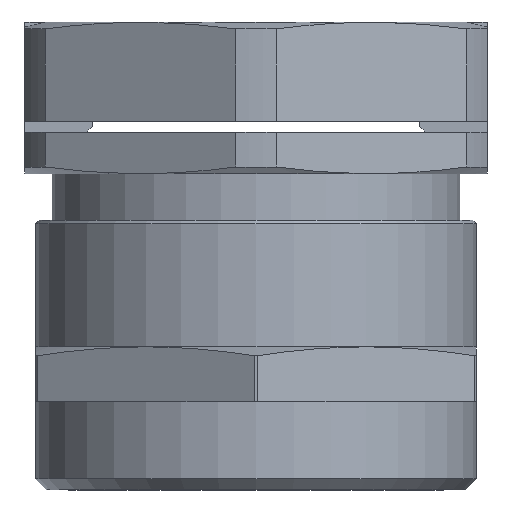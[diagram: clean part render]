
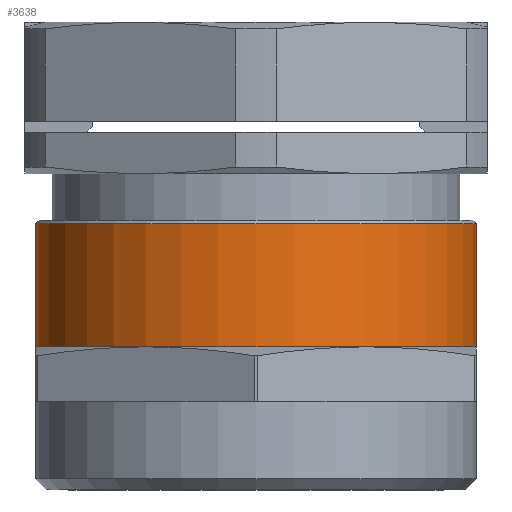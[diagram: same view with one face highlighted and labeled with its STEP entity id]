
A CAD part, front view. The second image highlights one B-rep face of the part: STEP entity #3638.
In plain terms, the highlighted cylindrical face has radius 20 mm (diameter 40 mm), a partial arc.
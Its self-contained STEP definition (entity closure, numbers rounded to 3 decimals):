
#33 = CARTESIAN_POINT ( 'NONE',  ( 20., 0., -29.5 ) ) ;
#34 = DIRECTION ( 'NONE',  ( 0., 0., 1. ) ) ;
#35 = VECTOR ( 'NONE', #34, 1000. ) ;
#36 = CARTESIAN_POINT ( 'NONE',  ( 20., 0., 0. ) ) ;
#37 = LINE ( 'NONE', #36, #35 ) ;
#38 = DIRECTION ( 'NONE',  ( 0., 0., 1. ) ) ;
#39 = VECTOR ( 'NONE', #38, 1000. ) ;
#40 = CARTESIAN_POINT ( 'NONE',  ( -20., 0., 0. ) ) ;
#41 = LINE ( 'NONE', #40, #39 ) ;
#42 = CARTESIAN_POINT ( 'NONE',  ( -20., 0., -29.5 ) ) ;
#147 = DIRECTION ( 'NONE',  ( 1., 0., 0. ) ) ;
#148 = DIRECTION ( 'NONE',  ( 0., 0., 1. ) ) ;
#149 = CARTESIAN_POINT ( 'NONE',  ( 0., 0., -29.5 ) ) ;
#150 = AXIS2_PLACEMENT_3D ( 'NONE', #149, #148, #147 ) ;
#151 = CIRCLE ( 'NONE', #150, 20. ) ;
#928 = CARTESIAN_POINT ( 'NONE',  ( 10., -17.321, -29.5 ) ) ;
#1072 = CARTESIAN_POINT ( 'NONE',  ( 0., 0., -29.5 ) ) ;
#1085 = DIRECTION ( 'NONE',  ( 1., 0., 0. ) ) ;
#1089 = CARTESIAN_POINT ( 'NONE',  ( 0., 0., -29.5 ) ) ;
#1096 = DIRECTION ( 'NONE',  ( 0., 0., 1. ) ) ;
#1097 = AXIS2_PLACEMENT_3D ( 'NONE', #1072, #1096, #1085 ) ;
#1098 = CIRCLE ( 'NONE', #1097, 20. ) ;
#1126 = CARTESIAN_POINT ( 'NONE',  ( -10., -17.321, -29.5 ) ) ;
#1224 = DIRECTION ( 'NONE',  ( 1., 0., 0. ) ) ;
#1225 = DIRECTION ( 'NONE',  ( 0., 0., 1. ) ) ;
#1226 = AXIS2_PLACEMENT_3D ( 'NONE', #1089, #1225, #1224 ) ;
#1228 = CIRCLE ( 'NONE', #1226, 20. ) ;
#2274 = VERTEX_POINT ( 'NONE', #6189 ) ;
#2366 = VERTEX_POINT ( 'NONE', #6525 ) ;
#2553 = VERTEX_POINT ( 'NONE', #42 ) ;
#2555 = EDGE_CURVE ( 'NONE', #2553, #2274, #41, .T. ) ;
#2558 = EDGE_CURVE ( 'NONE', #2559, #2366, #37, .T. ) ;
#2559 = VERTEX_POINT ( 'NONE', #33 ) ;
#2638 = EDGE_CURVE ( 'NONE', #3071, #3043, #151, .T. ) ;
#3043 = VERTEX_POINT ( 'NONE', #928 ) ;
#3071 = VERTEX_POINT ( 'NONE', #1126 ) ;
#3073 = EDGE_CURVE ( 'NONE', #2553, #3071, #1098, .T. ) ;
#3088 = EDGE_CURVE ( 'NONE', #3043, #2559, #1228, .T. ) ;
#3613 = CARTESIAN_POINT ( 'NONE',  ( 0., 0., 0. ) ) ;
#3621 = FACE_OUTER_BOUND ( 'NONE', #3640, .T. ) ;
#3638 = ADVANCED_FACE ( 'NONE', ( #3621 ), #3932, .T. ) ;
#3640 = EDGE_LOOP ( 'NONE', ( #3642, #3748, #3749, #3707, #3708, #3688 ) ) ;
#3642 = ORIENTED_EDGE ( 'NONE', *, *, #2555, .F. ) ;
#3688 = ORIENTED_EDGE ( 'NONE', *, *, #3689, .T. ) ;
#3689 = EDGE_CURVE ( 'NONE', #2366, #2274, #3954, .T. ) ;
#3707 = ORIENTED_EDGE ( 'NONE', *, *, #3088, .T. ) ;
#3708 = ORIENTED_EDGE ( 'NONE', *, *, #2558, .T. ) ;
#3748 = ORIENTED_EDGE ( 'NONE', *, *, #3073, .T. ) ;
#3749 = ORIENTED_EDGE ( 'NONE', *, *, #2638, .T. ) ;
#3929 = DIRECTION ( 'NONE',  ( 1., 0., 0. ) ) ;
#3930 = DIRECTION ( 'NONE',  ( 0., 0., 1. ) ) ;
#3931 = AXIS2_PLACEMENT_3D ( 'NONE', #3613, #3930, #3929 ) ;
#3932 = CYLINDRICAL_SURFACE ( 'NONE', #3931, 20. ) ;
#3954 = CIRCLE ( 'NONE', #4205, 20. ) ;
#4168 = DIRECTION ( 'NONE',  ( -1., 0., 0. ) ) ;
#4202 = DIRECTION ( 'NONE',  ( 0., 0., -1. ) ) ;
#4204 = CARTESIAN_POINT ( 'NONE',  ( 0., 0., -18.3 ) ) ;
#4205 = AXIS2_PLACEMENT_3D ( 'NONE', #4204, #4202, #4168 ) ;
#6189 = CARTESIAN_POINT ( 'NONE',  ( -20., 0., -18.3 ) ) ;
#6525 = CARTESIAN_POINT ( 'NONE',  ( 20., 0., -18.3 ) ) ;
